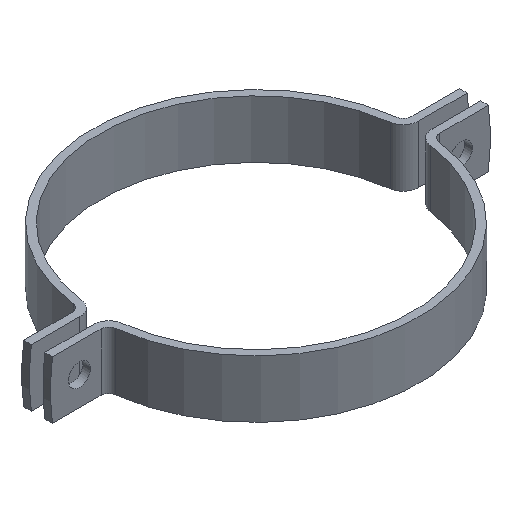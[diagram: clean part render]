
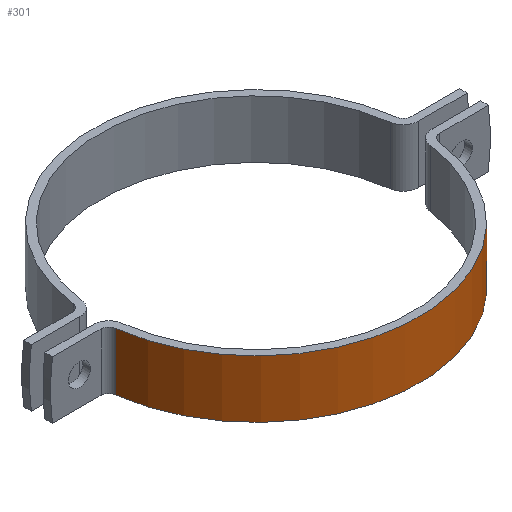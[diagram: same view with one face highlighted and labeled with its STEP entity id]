
A CAD part, isometric view. The second image highlights one B-rep face of the part: STEP entity #301.
In plain terms, the highlighted cylindrical face has radius 169.95 mm (diameter 339.9 mm), a partial arc.
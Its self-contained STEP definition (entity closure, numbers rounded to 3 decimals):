
#50 = VERTEX_POINT ( 'NONE', #598 ) ;
#51 = DIRECTION ( 'NONE',  ( 0., 0., 1. ) ) ;
#155 = AXIS2_PLACEMENT_3D ( 'NONE', #962, #279, #765 ) ;
#185 = CARTESIAN_POINT ( 'NONE',  ( -168.524, -21.966, -60. ) ) ;
#198 = VECTOR ( 'NONE', #388, 1000. ) ;
#234 = AXIS2_PLACEMENT_3D ( 'NONE', #1206, #243, #1009 ) ;
#243 = DIRECTION ( 'NONE',  ( 0., 0., 1. ) ) ;
#258 = VECTOR ( 'NONE', #51, 1000. ) ;
#265 = EDGE_CURVE ( 'NONE', #675, #1098, #690, .T. ) ;
#279 = DIRECTION ( 'NONE',  ( 0., 0., 1. ) ) ;
#285 = CARTESIAN_POINT ( 'NONE',  ( 168.524, -21.966, 0. ) ) ;
#289 = LINE ( 'NONE', #848, #258 ) ;
#301 = ADVANCED_FACE ( 'NONE', ( #588 ), #822, .T. ) ;
#388 = DIRECTION ( 'NONE',  ( 0., 0., 1. ) ) ;
#392 = EDGE_CURVE ( 'NONE', #50, #1067, #627, .T. ) ;
#452 = ORIENTED_EDGE ( 'NONE', *, *, #1055, .T. ) ;
#513 = CARTESIAN_POINT ( 'NONE',  ( 168.524, -21.966, -60. ) ) ;
#588 = FACE_OUTER_BOUND ( 'NONE', #1111, .T. ) ;
#598 = CARTESIAN_POINT ( 'NONE',  ( -168.524, -21.966, 0. ) ) ;
#627 = CIRCLE ( 'NONE', #648, 169.95 ) ;
#648 = AXIS2_PLACEMENT_3D ( 'NONE', #828, #1210, #1192 ) ;
#675 = VERTEX_POINT ( 'NONE', #185 ) ;
#690 = CIRCLE ( 'NONE', #155, 169.95 ) ;
#765 = DIRECTION ( 'NONE',  ( 1., 0., 0. ) ) ;
#822 = CYLINDRICAL_SURFACE ( 'NONE', #234, 169.95 ) ;
#828 = CARTESIAN_POINT ( 'NONE',  ( 0., 0., 0. ) ) ;
#848 = CARTESIAN_POINT ( 'NONE',  ( 168.524, -21.966, -60. ) ) ;
#854 = ORIENTED_EDGE ( 'NONE', *, *, #265, .T. ) ;
#962 = CARTESIAN_POINT ( 'NONE',  ( 0., 0., -60. ) ) ;
#964 = CARTESIAN_POINT ( 'NONE',  ( -168.524, -21.966, -60. ) ) ;
#994 = ORIENTED_EDGE ( 'NONE', *, *, #392, .F. ) ;
#1009 = DIRECTION ( 'NONE',  ( 1., 0., 0. ) ) ;
#1055 = EDGE_CURVE ( 'NONE', #1098, #1067, #289, .T. ) ;
#1067 = VERTEX_POINT ( 'NONE', #285 ) ;
#1098 = VERTEX_POINT ( 'NONE', #513 ) ;
#1111 = EDGE_LOOP ( 'NONE', ( #994, #1125, #854, #452 ) ) ;
#1125 = ORIENTED_EDGE ( 'NONE', *, *, #1141, .F. ) ;
#1141 = EDGE_CURVE ( 'NONE', #675, #50, #1167, .T. ) ;
#1167 = LINE ( 'NONE', #964, #198 ) ;
#1192 = DIRECTION ( 'NONE',  ( 1., 0., 0. ) ) ;
#1206 = CARTESIAN_POINT ( 'NONE',  ( 0., 0., -60. ) ) ;
#1210 = DIRECTION ( 'NONE',  ( 0., 0., 1. ) ) ;
